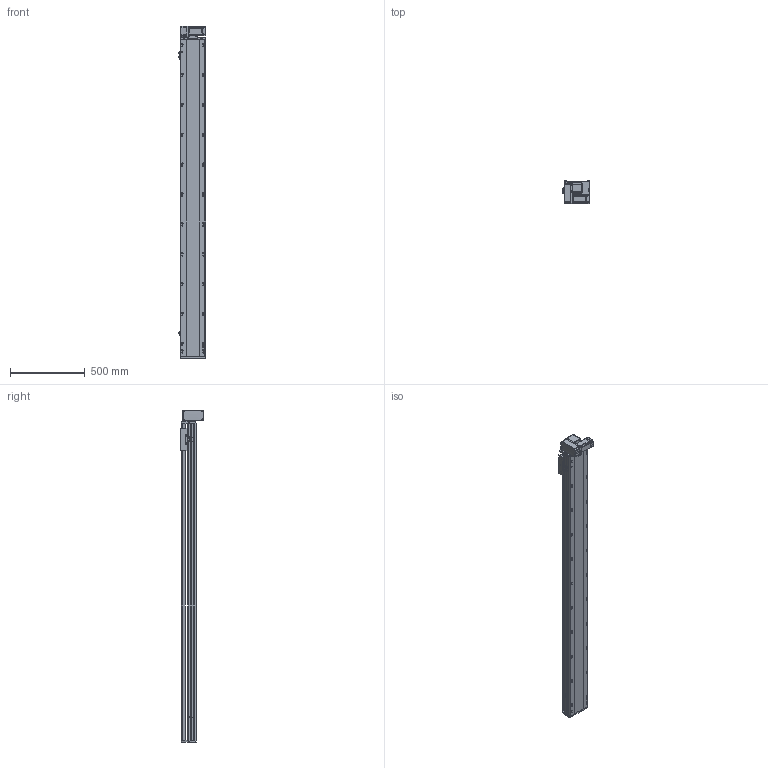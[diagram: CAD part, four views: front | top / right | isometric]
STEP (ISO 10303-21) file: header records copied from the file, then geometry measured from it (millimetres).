
FILE_DESCRIPTION (( 'STEP AP214' ), '1' );
FILE_NAME ('RTB17S-XX-1850-LM-M40-C4.STEP', '2025-12-11T06:31:31', ( '' ), ( '' ), 'SwSTEP 2.0', 'SolidWorks 2018', '' );
FILE_SCHEMA (( 'AUTOMOTIVE_DESIGN' ));
Length unit declared in the file: millimetre
Products named in the file (14): RTB17S-L-004佪裝蹟譫蟀諉釱^RTB17S-XX-XX-LM-M40-C4; RTB14-L-008-M20--萇儂啣^RTB17S-LM-々湍釱蚾饜-400W_RTB17S-XX-XX-LM-M40-C4; RTH13-BL-012覜茼え俋离^RTB17S-XX-XX-LM-M40-C4; RTB14-L-005P--轴承塑胶压盖^RTB17S-LM-皮带座装配-400W_RTB17S-XX-XX-LM-M40-C4; RMP17S-L-014-T20--々湍釱^RTB17S-LM-々湍釱蚾饜-400W_RTB17S-XX-XX-LM-M40-C4; RTB17S-L-007奻裔^RTB17S-XX-XX-LM-M40-C4; OMRON EE-SX672 传感器^RTB17S-XX-XX-LM-M40-C4; RTB17-R-011菁釱^RTB17S-XX-XX-LM-M40-C4; RTB17S-LM-々湍釱蚾饜-400W^RTB17S-XX-XX-LM-M40-C4; 400W侜督萇儂^RTB17S-XX-XX-LM-M40-C4; RTB17S-L-001耜醱啣^RTB17S-XX-XX-LM-M40-C4; RTB17S-XX-1850-LM-M40-C4; RTB14-L-018P^RTB17S-LM-々湍釱蚾饜-400W_RTB17S-XX-XX-LM-M40-C4; RTB14-L-017P^RTB17S-LM-々湍釱蚾饜-400W_RTB17S-XX-XX-LM-M40-C4
Assembly tree (16 placements, depth 3):
  RTB17S-XX-1850-LM-M40-C4
    RTB17-R-011菁釱^RTB17S-XX-XX-LM-M40-C4
    RTB17S-L-007奻裔^RTB17S-XX-XX-LM-M40-C4
    OMRON EE-SX672 传感器^RTB17S-XX-XX-LM-M40-C4  x3
    RTH13-BL-012覜茼え俋离^RTB17S-XX-XX-LM-M40-C4
    RTB17S-L-001耜醱啣^RTB17S-XX-XX-LM-M40-C4
    400W侜督萇儂^RTB17S-XX-XX-LM-M40-C4
    RTB17S-L-004佪裝蹟譫蟀諉釱^RTB17S-XX-XX-LM-M40-C4
    RTB17S-LM-々湍釱蚾饜-400W^RTB17S-XX-XX-LM-M40-C4
      RMP17S-L-014-T20--々湍釱^RTB17S-LM-々湍釱蚾饜-400W_RTB17S-XX-XX-LM-M40-C4
      RTB14-L-005P--轴承塑胶压盖^RTB17S-LM-皮带座装配-400W_RTB17S-XX-XX-LM-M40-C4
      RTB14-L-008-M20--萇儂啣^RTB17S-LM-々湍釱蚾饜-400W_RTB17S-XX-XX-LM-M40-C4
      RTB14-L-017P^RTB17S-LM-々湍釱蚾饜-400W_RTB17S-XX-XX-LM-M40-C4  x2
      RTB14-L-018P^RTB17S-LM-々湍釱蚾饜-400W_RTB17S-XX-XX-LM-M40-C4
Bounding box: 186 x 156.5 x 2222.5 mm (x, y, z)
Volume: 19300792.9 mm3; surface area: 2255761.1 mm2
Topology: 15 solids, 15 shells, 2285 faces, 6357 edges, 4149 vertices
Faces by surface type: plane 1078, cylinder 759, bspline 301, cone 139, torus 8
Entity records: 66473 total; most frequent: CARTESIAN_POINT 18762, ORIENTED_EDGE 9558, DIRECTION 8846, EDGE_CURVE 4779, VERTEX_POINT 3137, AXIS2_PLACEMENT_3D 3067, LINE 2712, VECTOR 2712
